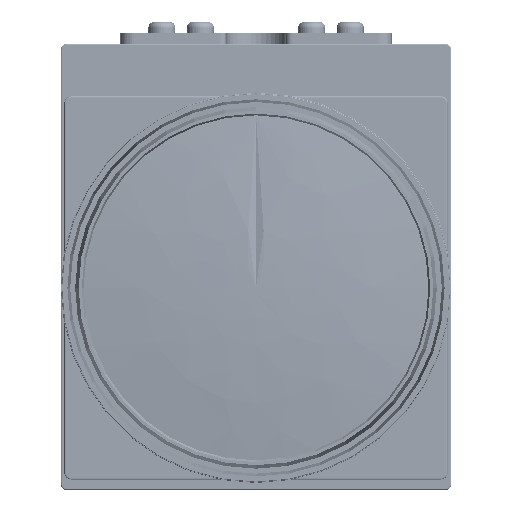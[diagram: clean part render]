
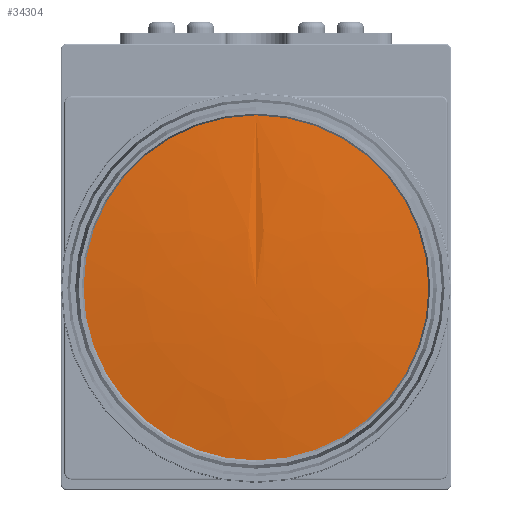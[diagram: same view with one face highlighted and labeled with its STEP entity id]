
A CAD part, left-side view. The second image highlights one B-rep face of the part: STEP entity #34304.
In plain terms, the highlighted free-form (B-spline) face has degree [3, 3] with [4, 7] control points.
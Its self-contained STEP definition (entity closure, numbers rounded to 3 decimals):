
#34304 = ADVANCED_FACE( '', ( #64371, #64372 ), #64373, .T. );
#64371 = FACE_BOUND( '', #95117, .T. );
#64372 = FACE_OUTER_BOUND( '', #95118, .T. );
#64373 = ( BOUNDED_SURFACE(  )B_SPLINE_SURFACE( 3, 3, ( ( #95121, #95122, #95123, #95124, #95125, #95126, #95127 ), ( #95128, #95129, #95130, #95131, #95132, #95133, #95134 ), ( #95135, #95136, #95137, #95138, #95139, #95140, #95141 ), ( #95142, #95143, #95144, #95145, #95146, #95147, #95148 ) ), .UNSPECIFIED., .F., .T., .F. )B_SPLINE_SURFACE_WITH_KNOTS( ( 4, 4 ), ( 4, 3, 4 ), ( 0., 6.283 ), ( -1.574, -1.517, -1.461 ), .UNSPECIFIED. )GEOMETRIC_REPRESENTATION_ITEM(  )RATIONAL_B_SPLINE_SURFACE( ( ( 1., 0.333, 0.333, 1., 0.333, 0.333, 1. ), ( 0.999, 0.333, 0.333, 0.999, 0.333, 0.333, 0.999 ), ( 0.999, 0.333, 0.333, 0.999, 0.333, 0.333, 0.999 ), ( 1., 0.333, 0.333, 1., 0.333, 0.333, 1. ) ) )REPRESENTATION_ITEM( '' )SURFACE(  ) );
#95117 = VERTEX_LOOP( '', #141712 );
#95118 = EDGE_LOOP( '', ( #141713 ) );
#95121 = CARTESIAN_POINT( '', ( 68.328, 0., 53.746 ) );
#95122 = CARTESIAN_POINT( '', ( 68.328, 49.492, 53.746 ) );
#95123 = CARTESIAN_POINT( '', ( 68.328, 49.492, 4.254 ) );
#95124 = CARTESIAN_POINT( '', ( 68.328, 0., 4.254 ) );
#95125 = CARTESIAN_POINT( '', ( 68.328, -49.492, 4.254 ) );
#95126 = CARTESIAN_POINT( '', ( 68.328, -49.492, 53.746 ) );
#95127 = CARTESIAN_POINT( '', ( 68.328, 0., 53.746 ) );
#95128 = CARTESIAN_POINT( '', ( 69.237, 0., 45.527 ) );
#95129 = CARTESIAN_POINT( '', ( 69.237, 33.053, 45.527 ) );
#95130 = CARTESIAN_POINT( '', ( 69.237, 33.053, 12.473 ) );
#95131 = CARTESIAN_POINT( '', ( 69.237, 0., 12.473 ) );
#95132 = CARTESIAN_POINT( '', ( 69.237, -33.053, 12.473 ) );
#95133 = CARTESIAN_POINT( '', ( 69.237, -33.053, 45.527 ) );
#95134 = CARTESIAN_POINT( '', ( 69.237, 0., 45.527 ) );
#95135 = CARTESIAN_POINT( '', ( 69.678, 0., 37.269 ) );
#95136 = CARTESIAN_POINT( '', ( 69.678, 16.538, 37.269 ) );
#95137 = CARTESIAN_POINT( '', ( 69.678, 16.538, 20.731 ) );
#95138 = CARTESIAN_POINT( '', ( 69.678, 0., 20.731 ) );
#95139 = CARTESIAN_POINT( '', ( 69.678, -16.538, 20.731 ) );
#95140 = CARTESIAN_POINT( '', ( 69.678, -16.538, 37.269 ) );
#95141 = CARTESIAN_POINT( '', ( 69.678, 0., 37.269 ) );
#95142 = CARTESIAN_POINT( '', ( 69.65, 0., 29. ) );
#95143 = CARTESIAN_POINT( '', ( 69.65, 0., 29. ) );
#95144 = CARTESIAN_POINT( '', ( 69.65, 0., 29. ) );
#95145 = CARTESIAN_POINT( '', ( 69.65, 0., 29. ) );
#95146 = CARTESIAN_POINT( '', ( 69.65, 0., 29. ) );
#95147 = CARTESIAN_POINT( '', ( 69.65, 0., 29. ) );
#95148 = CARTESIAN_POINT( '', ( 69.65, 0., 29. ) );
#141712 = VERTEX_POINT( '', #194230 );
#141713 = ORIENTED_EDGE( '', *, *, #194231, .F. );
#194230 = CARTESIAN_POINT( '', ( 69.65, 0., 29. ) );
#194231 = EDGE_CURVE( '', #230217, #230217, #230218, .T. );
#230217 = VERTEX_POINT( '', #279756 );
#230218 = CIRCLE( '', #279757, 24.746 );
#279756 = CARTESIAN_POINT( '', ( 68.328, 0., 53.746 ) );
#279757 = AXIS2_PLACEMENT_3D( '', #312232, #312233, #312234 );
#312232 = CARTESIAN_POINT( '', ( 68.328, 0., 29. ) );
#312233 = DIRECTION( '', ( -1., 0., 0. ) );
#312234 = DIRECTION( '', ( 0., 0., 1. ) );
